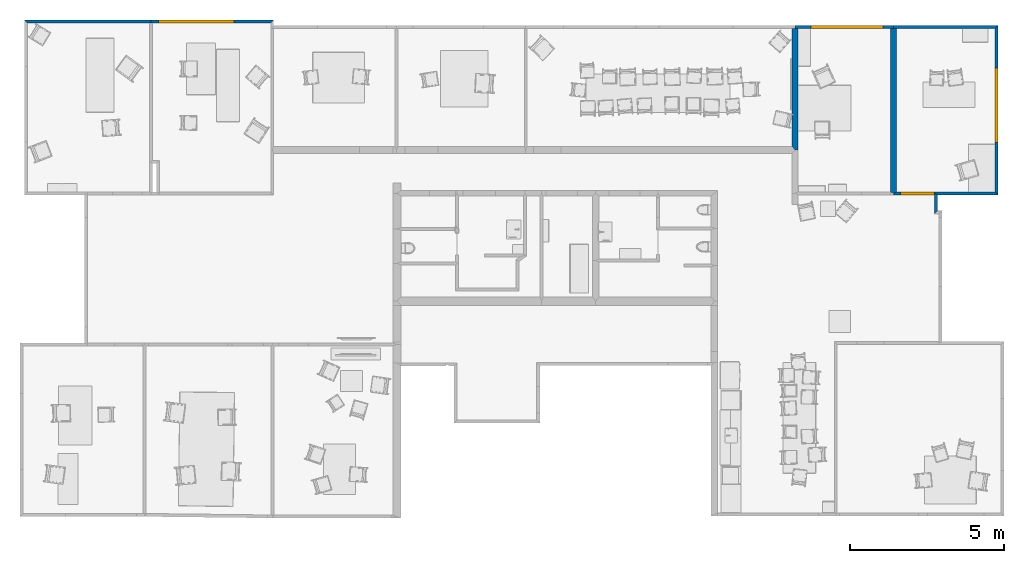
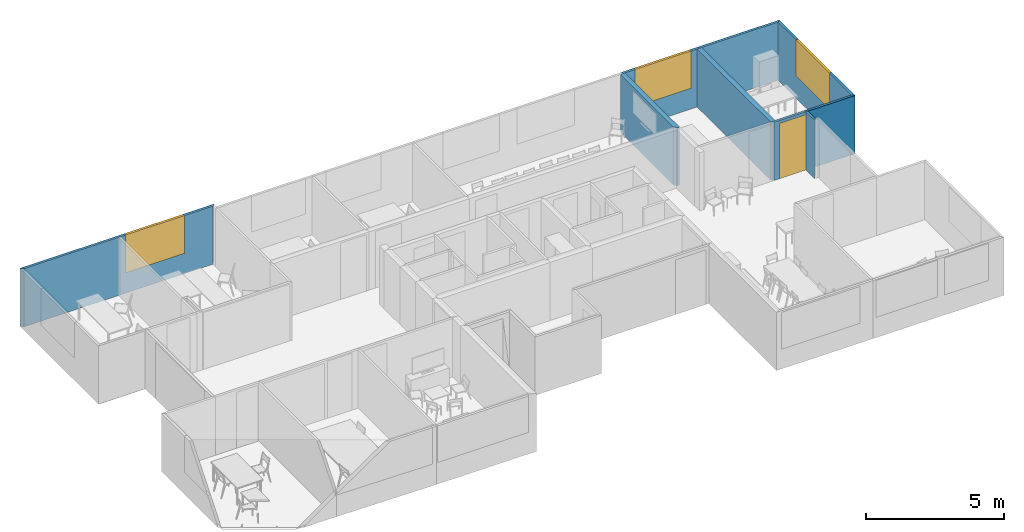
# One storey, part 5 of 26: 10 walls, 3 windows, 1 door, 4 openings.
"""IFC2X3 building model written with IfcOpenShell, lengths in metres."""

from ifc_helpers import new_model, si_unit, direction, frame, origin_with_axes, place, context, subcontext, project, spatial, polyline, outline, extrude, type_object, element, fill, save


model = new_model("IFC2X3")

# Units and contexts
model_context = context("Model", 3, precision=1e-05, world=origin_with_axes(), true_north=direction((0.996, -0.093, 0.0)))
body_context = subcontext(model_context, "Body", "Model", "MODEL_VIEW")
ifc_project = project(units=[si_unit("AREAUNIT", "SQUARE_METRE"), si_unit("LENGTHUNIT", "METRE")], contexts=[model_context])

# Site, building, storey
site_placement = place(None, origin_with_axes())
site = spatial("IfcSite", under=ifc_project, at=site_placement, Name="Site", CompositionType="ELEMENT")
building_placement = place(site_placement, origin_with_axes())
building = spatial("IfcBuilding", under=site, at=building_placement, Name="Building", CompositionType="ELEMENT")
storey_placement = place(building_placement, frame((0.0, 0.0, 0.0500001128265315), z_axis=(0.0, 0.0, 1.0), x_axis=(1.0, 0.0, 0.0)))
storey = spatial("IfcBuildingStorey", under=building, at=storey_placement, Name="Story 0", CompositionType="ELEMENT", Elevation=0.0499999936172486)

# Wall, opening, door
wall_type_1 = type_object("IfcWallType", PredefinedType="STANDARD")
wall_1_placement = place(storey_placement, frame((26.2290607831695, 5.68250645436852, 0.0), z_axis=(0.0, 0.0, 1.0), x_axis=(1.0, 0.0, 0.0)))
wall_1 = element("IfcWallStandardCase", 1, at=wall_1_placement, inside=storey, type_object=wall_type_1, Name="Wall", context=body_context, shape_type="SweptSolid", body=[
    extrude(outline(polyline([(0.0, 0.0), (-6.2935470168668e-09, 0.0463823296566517), (0.0975397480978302, 0.0927646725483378), (1.32923605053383, 0.092764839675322), (1.32923605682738, 0.0463825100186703), (1.329236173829, 1.80362043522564e-07), (0.0, 0.0)])), origin_with_axes(), (0.0, 0.0, 1.0), 2.5729394),
])
opening_1_placement = place(wall_1_placement, frame((0.218182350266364, 0.0, 0.0), z_axis=(0.0, 0.0, 1.0), x_axis=(1.00000000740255, 0.0, 0.0)))
opening_1 = element("IfcOpeningElement", 2, at=opening_1_placement, cuts=wall_1, Name="OpeningElement", ObjectType="OPENING", context=body_context, shape_type="SweptSolid", body=[
    extrude(outline(polyline([(0.0, 0.0), (1.11105350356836, 0.0), (1.11105350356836, 2.45178428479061), (0.0, 2.45178428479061), (0.0, 0.0)])), frame((0.0, 0.0, 0.0), z_axis=(0.0, -1.0, 0.0), x_axis=(1.0, 0.0, 0.0)), (0.0, 0.0, -1.0), 0.0928646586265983),
])
door_style = type_object("IfcDoorStyle", Name="64003f25-dc36-4892-b858-839f910e8532", ConstructionType="NOTDEFINED", OperationType="NOTDEFINED", ParameterTakesPrecedence=False, Sizeable=False)
door_placement = place(opening_1_placement, origin_with_axes())
door = element("IfcDoor", 3, at=door_placement, inside=storey, type_object=door_style, Name="Door", OverallHeight=2.45178514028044, OverallWidth=1.11105361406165, context=body_context, shape_type="SweptSolid", body=[
    extrude(outline(polyline([(0.0, 0.0), (-1.1110534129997, 0.0), (-1.1110534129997, 2.45178432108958), (0.0, 2.45178432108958), (0.0, 0.0)])), frame((0.0, 0.0927646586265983, 0.0), z_axis=(0.0, 1.0, 0.0), x_axis=(-1.0, 0.0, 0.0)), (0.0, 0.0, -1.0), 0.0927646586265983),
])
fill(opening_1, door)

# Wall
wall_type_2 = type_object("IfcWallType", PredefinedType="STANDARD")
wall_2_placement = place(storey_placement, frame((27.5582985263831, 5.06036386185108, 0.0), z_axis=(0.0, 0.0, 1.0), x_axis=(1.0, 0.0, 0.0)))
element("IfcWallStandardCase", 4, at=wall_2_placement, inside=storey, type_object=wall_type_2, Name="Wall", context=body_context, shape_type="SweptSolid", body=[
    extrude(outline(polyline([(0.0, 0.0), (-1.56938467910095e-06, 0.622142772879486), (-1.68638630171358e-06, 0.668525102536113), (0.0999984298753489, 0.622142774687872), (0.0999997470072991, 0.0999992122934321), (0.0, 0.0)])), origin_with_axes(), (0.0, 0.0, 1.0), 2.5729394),
])

# Wall, opening, window
wall_type_3 = type_object("IfcWallType", PredefinedType="STANDARD")
wall_3_placement = place(storey_placement, frame((2.11040103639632, 11.2697735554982, 0.0), z_axis=(0.0, 0.0, 1.0), x_axis=(1.0, 0.0, 0.0)))
wall_3 = element("IfcWallStandardCase", 5, at=wall_3_placement, inside=storey, type_object=wall_type_3, Name="Wall", context=body_context, shape_type="SweptSolid", body=[
    extrude(outline(polyline([(0.0, 0.0), (-0.0463823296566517, -8.69257021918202e-09), (-0.0463823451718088, 0.0999999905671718), (3.94710436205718, 0.100000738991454), (3.85411043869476, 7.22303603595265e-07), (0.0, 0.0)])), origin_with_axes(), (0.0, 0.0, 1.0), 2.5729394),
])
opening_2_placement = place(wall_3_placement, frame((0.204486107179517, 0.0, 0.901117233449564), z_axis=(0.0, 0.0, 1.0), x_axis=(1.00000000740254, 0.0, 0.0)))
opening_2 = element("IfcOpeningElement", 6, at=opening_2_placement, cuts=wall_3, Name="OpeningElement", ObjectType="OPENING", context=body_context, shape_type="SweptSolid", body=[
    extrude(outline(polyline([(0.0, 0.0), (2.45018399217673, 0.0), (2.45018399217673, 1.67182200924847), (0.0, 1.67182200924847), (0.0, 0.0)])), frame((0.0, 0.0, 0.0), z_axis=(0.0, -1.0, 0.0), x_axis=(1.0, 0.0, 0.0)), (0.0, 0.0, -1.0), 0.100099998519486),
])
window_style_1 = type_object("IfcWindowStyle", Name="4200353a-efd8-4392-ac73-d7cc9e90602f", ConstructionType="ALUMINIUM", OperationType="SINGLE_PANEL", ParameterTakesPrecedence=True, Sizeable=True)
window_1_placement = place(opening_2_placement, origin_with_axes())
window_1 = element("IfcWindow", 7, at=window_1_placement, inside=storey, type_object=window_style_1, Name="Window", OverallHeight=1.5, OverallWidth=0.5, context=body_context, shape_type="SweptSolid", body=[
    extrude(outline(polyline([(0.0, 0.0), (-2.4501838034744, 0.0), (-2.4501838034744, 1.671822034), (0.0, 1.671822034), (0.0, 0.0)])), frame((0.0, 0.0999999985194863, 0.0), z_axis=(0.0, 1.0, 0.0), x_axis=(-1.0, 0.0, 0.0)), (0.0, 0.0, -1.0), 0.0999999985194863),
])
fill(opening_2, window_1)

# Walls
wall_type_4 = type_object("IfcWallType", PredefinedType="STANDARD")
wall_4_placement = place(storey_placement, frame((26.3265999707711, 11.0953670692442, 0.0), z_axis=(0.0, 0.0, 1.0), x_axis=(1.0, 0.0, 0.0)))
element("IfcWallStandardCase", 8, at=wall_4_placement, inside=storey, type_object=wall_type_4, Name="Wall", context=body_context, shape_type="SweptSolid", body=[
    extrude(outline(polyline([(0.0, 0.0), (-0.0975397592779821, -4.84280189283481e-08), (-0.0975397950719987, 0.0999999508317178), (3.29669341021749, 0.100001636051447), (3.19669347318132, 1.58714214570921e-06), (0.0, 0.0)])), origin_with_axes(), (0.0, 0.0, 1.0), 2.5729394),
])
wall_type_5 = type_object("IfcWallType", PredefinedType="STANDARD")
wall_5_placement = place(storey_placement, frame((27.6582969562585, 5.68250663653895, 0.0), z_axis=(0.0, 0.0, 1.0), x_axis=(1.0, 0.0, 0.0)))
element("IfcWallStandardCase", 9, at=wall_5_placement, inside=storey, type_object=wall_type_5, Name="Wall", context=body_context, shape_type="SweptSolid", body=[
    extrude(outline(polyline([(0.0, 0.0), (-0.100000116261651, 0.0463823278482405), (-0.100000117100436, 0.0927646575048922), (1.86499979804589, 0.0927646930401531), (1.96499985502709, 3.55352600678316e-08), (0.0, 0.0)])), origin_with_axes(), (0.0, 0.0, 1.0), 2.5729394),
])
wall_type_6 = type_object("IfcWallType", PredefinedType="STANDARD")
wall_6_placement = place(storey_placement, frame((26.1315204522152, 11.0953669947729, 0.0), z_axis=(0.0, 0.0, 1.0), x_axis=(1.0, 0.0, 0.0)))
element("IfcWallStandardCase", 10, at=wall_6_placement, inside=storey, type_object=wall_type_6, Name="Wall", context=body_context, shape_type="SweptSolid", body=[
    extrude(outline(polyline([(0.0, 0.0), (0.0975397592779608, 2.60432226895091e-08), (0.195079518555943, 7.44712416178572e-08), (0.195080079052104, -5.32009586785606), (0.0975403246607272, -5.36647821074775), (5.60496182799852e-07, -5.32009589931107), (0.0, 0.0)])), origin_with_axes(), (0.0, 0.0, 1.0), 2.5729394),
])

# Wall, opening, window
wall_type_7 = type_object("IfcWallType", PredefinedType="STANDARD")
wall_7_placement = place(storey_placement, frame((29.5232934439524, 11.0953686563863, 0.0), z_axis=(0.0, 0.0, 1.0), x_axis=(1.0, 0.0, 0.0)))
wall_7 = element("IfcWallStandardCase", 11, at=wall_7_placement, inside=storey, type_object=wall_type_7, Name="Wall", context=body_context, shape_type="SweptSolid", body=[
    extrude(outline(polyline([(0.0, 0.0), (0.0999999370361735, 0.100000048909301), (0.100003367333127, -5.4128619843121), (3.3103519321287e-06, -5.32009732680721), (0.0, 0.0)])), origin_with_axes(), (0.0, 0.0, 1.0), 2.5729394),
])
opening_3_placement = place(wall_7_placement, frame((0.0, -1.29066511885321, 0.978742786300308), z_axis=(0.0, 0.0, 1.0), x_axis=(0.0, -1.00000000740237, 0.0)))
opening_3 = element("IfcOpeningElement", 12, at=opening_3_placement, cuts=wall_7, Name="OpeningElement", ObjectType="OPENING", context=body_context, shape_type="SweptSolid", body=[
    extrude(outline(polyline([(-6.23324769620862e-16, 0.0), (2.42700818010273, 0.0), (2.42700818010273, 1.59419645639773), (-6.23324769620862e-16, 1.59419645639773), (-6.23324769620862e-16, 0.0)])), frame((0.0, 0.0, 0.0), z_axis=(0.0, -1.0, 0.0), x_axis=(1.0, 0.0, 0.0)), (0.0, 0.0, -1.0), 0.100099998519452),
])
window_style_2 = type_object("IfcWindowStyle", Name="06db1f16-bbbb-478e-8d5c-f2242dfc2cd7", ConstructionType="ALUMINIUM", OperationType="SINGLE_PANEL", ParameterTakesPrecedence=True, Sizeable=True)
window_2_placement = place(opening_3_placement, origin_with_axes())
window_2 = element("IfcWindow", 13, at=window_2_placement, inside=storey, type_object=window_style_2, Name="Window", OverallHeight=1.5, OverallWidth=0.5, context=body_context, shape_type="SweptSolid", body=[
    extrude(outline(polyline([(-7.63591731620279e-16, 0.0), (-2.4270083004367, 0.0), (-2.4270083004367, 1.59419648), (-7.63591731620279e-16, 1.59419648), (-7.63591731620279e-16, 0.0)])), frame((0.0, 0.0999999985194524, 0.0), z_axis=(0.0, 1.0, 0.0), x_axis=(-1.0, 0.0, 0.0)), (0.0, 0.0, -1.0), 0.0999999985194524),
])
fill(opening_3, window_2)

# Wall
wall_type_8 = type_object("IfcWallType", PredefinedType="STANDARD")
wall_8_placement = place(storey_placement, frame((22.9254645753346, 11.0952564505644, 0.0), z_axis=(0.0, 0.0, 1.0), x_axis=(1.0, 0.0, 0.0)))
element("IfcWallStandardCase", 14, at=wall_8_placement, inside=storey, type_object=wall_type_8, Name="Wall", context=body_context, shape_type="SweptSolid", body=[
    extrude(outline(polyline([(0.0, 0.0), (0.0947400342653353, 0.000109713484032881), (0.189480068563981, 0.000109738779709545), (0.189481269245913, -3.95194136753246), (0.0947412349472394, -3.95194139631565), (1.16600635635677e-06, -3.83791636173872), (0.0, 0.0)])), origin_with_axes(), (0.0, 0.0, 1.0), 2.5729394),
])

# Wall, opening, window
wall_type_9 = type_object("IfcWallType", PredefinedType="STANDARD")
wall_9_placement = place(storey_placement, frame((23.1149446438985, 11.0953661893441, 0.0), z_axis=(0.0, 0.0, 1.0), x_axis=(1.0, 0.0, 0.0)))
wall_9 = element("IfcWallStandardCase", 15, at=wall_9_placement, inside=storey, type_object=wall_type_9, Name="Wall", context=body_context, shape_type="SweptSolid", body=[
    extrude(outline(polyline([(0.0, 0.0), (-0.0947400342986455, -2.52956766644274e-08), (-0.0947400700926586, 0.0999999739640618), (3.11411553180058, 0.100000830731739), (3.11411556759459, 8.31472002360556e-07), (3.01657580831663, 8.05428779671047e-07), (0.0, 0.0)])), origin_with_axes(), (0.0, 0.0, 1.0), 2.5729394),
])
opening_4_placement = place(wall_9_placement, frame((0.419648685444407, 0.0, 0.924402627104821), z_axis=(0.0, 0.0, 1.0), x_axis=(1.00000000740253, 0.0, 0.0)))
opening_4 = element("IfcOpeningElement", 16, at=opening_4_placement, cuts=wall_9, Name="OpeningElement", ObjectType="OPENING", context=body_context, shape_type="SweptSolid", body=[
    extrude(outline(polyline([(0.0, 0.0), (2.34457790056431, 0.0), (2.34457790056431, 1.64853661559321), (0.0, 1.64853661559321), (0.0, 0.0)])), frame((0.0, 0.0, 0.0), z_axis=(0.0, -1.0, 0.0), x_axis=(1.0, 0.0, 0.0)), (0.0, 0.0, -1.0), 0.100099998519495),
])
window_style_3 = type_object("IfcWindowStyle", Name="b7cf6f27-38e8-42e7-8eca-e7c523fb7a8e", ConstructionType="ALUMINIUM", OperationType="SINGLE_PANEL", ParameterTakesPrecedence=True, Sizeable=True)
window_3_placement = place(opening_4_placement, origin_with_axes())
window_3 = element("IfcWindow", 17, at=window_3_placement, inside=storey, type_object=window_style_3, Name="Window", OverallHeight=1.5, OverallWidth=0.5, context=body_context, shape_type="SweptSolid", body=[
    extrude(outline(polyline([(0.0, 0.0), (-2.34457766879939, 0.0), (-2.34457766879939, 1.64853664), (0.0, 1.64853664), (0.0, 0.0)])), frame((0.0, 0.0999999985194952, 0.0), z_axis=(0.0, 1.0, 0.0), x_axis=(-1.0, 0.0, 0.0)), (0.0, 0.0, -1.0), 0.0999999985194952),
])
fill(opening_4, window_3)

# Wall
wall_type_10 = type_object("IfcWallType", PredefinedType="STANDARD")
wall_10_placement = place(storey_placement, frame((-1.95416717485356, 11.2697727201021, 0.0), z_axis=(0.0, 0.0, 1.0), x_axis=(1.0, 0.0, 0.0)))
element("IfcWallStandardCase", 18, at=wall_10_placement, inside=storey, type_object=wall_type_10, Name="Wall", context=body_context, shape_type="SweptSolid", body=[
    extrude(outline(polyline([(0.0, 0.0), (-0.100000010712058, 0.0999999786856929), (4.01818585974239, 0.100000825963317), (4.01818588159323, 8.26703574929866e-07), (3.97180355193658, 8.17160850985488e-07), (0.0, 0.0)])), origin_with_axes(), (0.0, 0.0, 1.0), 2.5729394),
])

save(model, "model.ifc")
